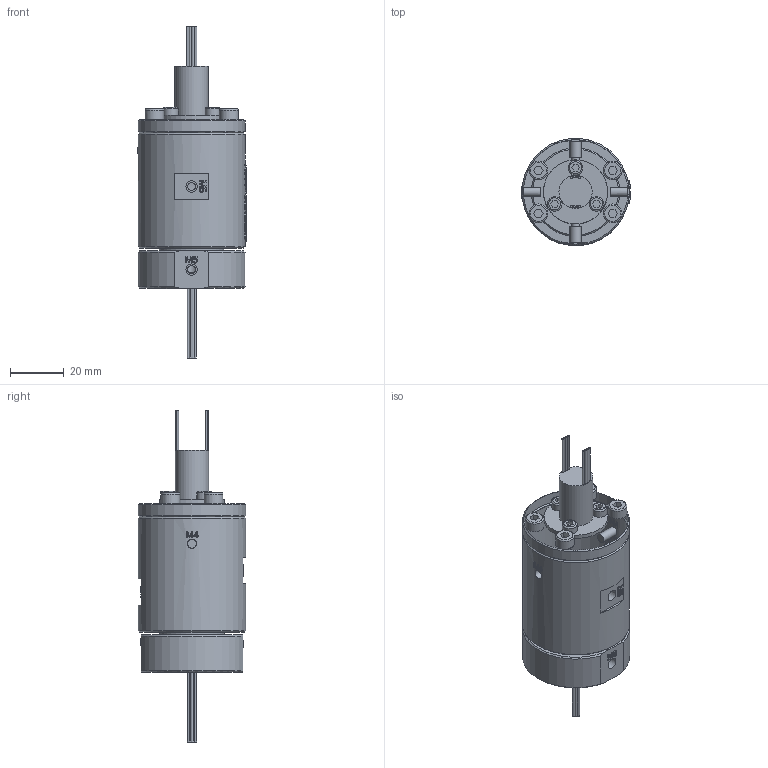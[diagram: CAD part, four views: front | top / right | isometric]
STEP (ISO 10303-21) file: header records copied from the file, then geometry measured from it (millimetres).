
FILE_DESCRIPTION(/* description */ (''),/* implementation_level */ '2;1');
FILE_NAME(/* name */ 'YQ02005-08M.stp',/* time_stamp */ '2025-09-01T09:47:30+08:00',/* author */ (''),/* organization */ (''),/* preprocessor_version */ 'ST-DEVELOPER v16.7',/* originating_system */ 'SIEMENS PLM Software NX 12.0',/* authorisation */ '');
FILE_SCHEMA (('AUTOMOTIVE_DESIGN { 1 0 10303 214 3 1 1 1 }'));
Products named in the file (1): Admi1DF097DFvvrm
Bounding box: 40.7 x 40 x 123.9 mm (x, y, z)
Volume: 80431.9 mm3; surface area: 16407.5 mm2
Topology: 1 solids, 9 shells, 1165 faces, 3125 edges, 2081 vertices
Faces by surface type: extrusion 524, plane 485, cylinder 83, bspline 45, cone 21, torus 7
Full cylindrical faces by diameter (mm): 0.8 x16, 3 x7, 3.4 x9, 4 x6, 4.1 x2, 4.2 x6, 5 x1, 5.5 x3, 6 x1, 7 x4, 12.4 x1, 23.9 x1, 24 x1, 32 x1, 40 x2
Entity records: 44851 total; most frequent: CARTESIAN_POINT 20267, ORIENTED_EDGE 5982, EDGE_CURVE 2991, DIRECTION 2915, B_SPLINE_CURVE_WITH_KNOTS 2639, VERTEX_POINT 2040, EDGE_LOOP 1377, ADVANCED_FACE 1165
